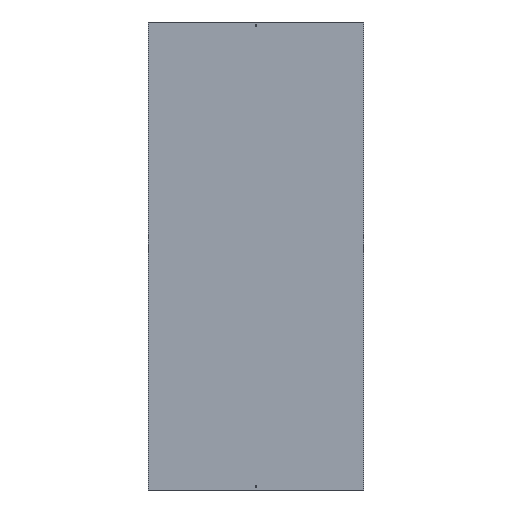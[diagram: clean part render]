
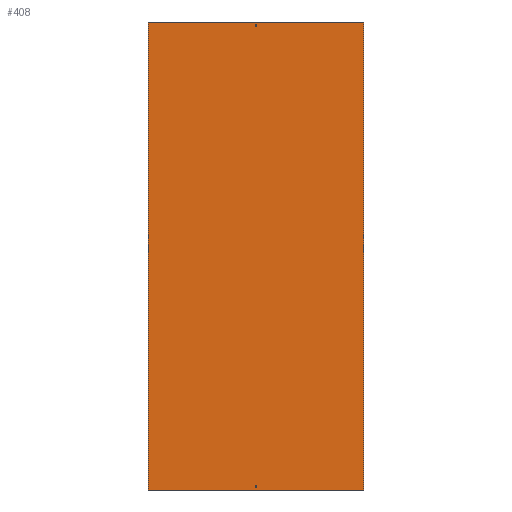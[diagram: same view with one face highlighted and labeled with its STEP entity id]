
A CAD part, front view. The second image highlights one B-rep face of the part: STEP entity #408.
In plain terms, the highlighted planar face has unit normal (0, -1, 0).
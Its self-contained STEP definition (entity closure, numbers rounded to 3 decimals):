
#1 = EDGE_CURVE ( 'NONE', #537, #150, #47, .T. ) ;
#10 = EDGE_CURVE ( 'NONE', #380, #466, #485, .T. ) ;
#15 = CARTESIAN_POINT ( 'NONE',  ( -461.5, -1.5, -979. ) ) ;
#22 = LINE ( 'NONE', #103, #359 ) ;
#24 = DIRECTION ( 'NONE',  ( 0., -1., 0. ) ) ;
#28 = AXIS2_PLACEMENT_3D ( 'NONE', #484, #24, #568 ) ;
#40 = VECTOR ( 'NONE', #230, 1000. ) ;
#46 = EDGE_CURVE ( 'NONE', #588, #373, #206, .T. ) ;
#47 = LINE ( 'NONE', #240, #494 ) ;
#55 = ORIENTED_EDGE ( 'NONE', *, *, #10, .T. ) ;
#57 = EDGE_CURVE ( 'NONE', #466, #520, #261, .T. ) ;
#59 = VECTOR ( 'NONE', #403, 1000. ) ;
#60 = DIRECTION ( 'NONE',  ( 0., 0., -1. ) ) ;
#69 = EDGE_CURVE ( 'NONE', #294, #400, #22, .T. ) ;
#78 = FACE_BOUND ( 'NONE', #125, .T. ) ;
#79 = ORIENTED_EDGE ( 'NONE', *, *, #57, .T. ) ;
#86 = CARTESIAN_POINT ( 'NONE',  ( 3.25, -1.5, 1000. ) ) ;
#90 = LINE ( 'NONE', #133, #40 ) ;
#91 = VECTOR ( 'NONE', #347, 1000. ) ;
#95 = EDGE_LOOP ( 'NONE', ( #194, #272, #55, #79 ) ) ;
#101 = VECTOR ( 'NONE', #327, 1000. ) ;
#102 = VERTEX_POINT ( 'NONE', #533 ) ;
#103 = CARTESIAN_POINT ( 'NONE',  ( -460., -1.5, 1000. ) ) ;
#104 = CARTESIAN_POINT ( 'NONE',  ( 460., -1.5, 1000. ) ) ;
#106 = EDGE_CURVE ( 'NONE', #150, #325, #175, .T. ) ;
#114 = FACE_BOUND ( 'NONE', #95, .T. ) ;
#125 = EDGE_LOOP ( 'NONE', ( #365, #382, #482, #415 ) ) ;
#133 = CARTESIAN_POINT ( 'NONE',  ( -3.25, -1.5, 1000. ) ) ;
#148 = EDGE_CURVE ( 'NONE', #588, #294, #500, .T. ) ;
#150 = VERTEX_POINT ( 'NONE', #575 ) ;
#155 = CARTESIAN_POINT ( 'NONE',  ( 460., -1.5, 1000. ) ) ;
#164 = LINE ( 'NONE', #502, #190 ) ;
#169 = DIRECTION ( 'NONE',  ( -1., 0., 0. ) ) ;
#174 = CARTESIAN_POINT ( 'NONE',  ( -461.5, -1.5, -1000. ) ) ;
#175 = LINE ( 'NONE', #368, #351 ) ;
#185 = ORIENTED_EDGE ( 'NONE', *, *, #46, .F. ) ;
#190 = VECTOR ( 'NONE', #169, 1000. ) ;
#194 = ORIENTED_EDGE ( 'NONE', *, *, #439, .T. ) ;
#206 = LINE ( 'NONE', #155, #91 ) ;
#219 = CARTESIAN_POINT ( 'NONE',  ( -461.5, -1.5, 1000. ) ) ;
#222 = VERTEX_POINT ( 'NONE', #234 ) ;
#230 = DIRECTION ( 'NONE',  ( 0., 0., 1. ) ) ;
#234 = CARTESIAN_POINT ( 'NONE',  ( 3.25, -1.5, 979. ) ) ;
#240 = CARTESIAN_POINT ( 'NONE',  ( -461.5, -1.5, 988. ) ) ;
#256 = VECTOR ( 'NONE', #587, 1000. ) ;
#261 = LINE ( 'NONE', #266, #324 ) ;
#266 = CARTESIAN_POINT ( 'NONE',  ( 3.25, -1.5, 1000. ) ) ;
#267 = ORIENTED_EDGE ( 'NONE', *, *, #69, .T. ) ;
#272 = ORIENTED_EDGE ( 'NONE', *, *, #275, .T. ) ;
#274 = LINE ( 'NONE', #174, #256 ) ;
#275 = EDGE_CURVE ( 'NONE', #102, #380, #90, .T. ) ;
#294 = VERTEX_POINT ( 'NONE', #543 ) ;
#305 = CARTESIAN_POINT ( 'NONE',  ( -460., -1.5, -1000. ) ) ;
#315 = PLANE ( 'NONE',  #28 ) ;
#322 = DIRECTION ( 'NONE',  ( 1., 0., 0. ) ) ;
#324 = VECTOR ( 'NONE', #60, 1000. ) ;
#325 = VERTEX_POINT ( 'NONE', #419 ) ;
#327 = DIRECTION ( 'NONE',  ( 0., 0., 1. ) ) ;
#337 = CARTESIAN_POINT ( 'NONE',  ( 3.25, -1.5, 988. ) ) ;
#340 = DIRECTION ( 'NONE',  ( -1., 0., 0. ) ) ;
#347 = DIRECTION ( 'NONE',  ( 0., 0., -1. ) ) ;
#351 = VECTOR ( 'NONE', #406, 1000. ) ;
#359 = VECTOR ( 'NONE', #519, 1000. ) ;
#365 = ORIENTED_EDGE ( 'NONE', *, *, #106, .F. ) ;
#368 = CARTESIAN_POINT ( 'NONE',  ( -3.25, -1.5, 1000. ) ) ;
#373 = VERTEX_POINT ( 'NONE', #571 ) ;
#380 = VERTEX_POINT ( 'NONE', #521 ) ;
#382 = ORIENTED_EDGE ( 'NONE', *, *, #1, .F. ) ;
#395 = FACE_OUTER_BOUND ( 'NONE', #480, .T. ) ;
#400 = VERTEX_POINT ( 'NONE', #305 ) ;
#403 = DIRECTION ( 'NONE',  ( -1., 0., 0. ) ) ;
#406 = DIRECTION ( 'NONE',  ( 0., 0., -1. ) ) ;
#408 = ADVANCED_FACE ( 'NONE', ( #78, #395, #114 ), #315, .T. ) ;
#415 = ORIENTED_EDGE ( 'NONE', *, *, #491, .F. ) ;
#419 = CARTESIAN_POINT ( 'NONE',  ( -3.25, -1.5, 979. ) ) ;
#439 = EDGE_CURVE ( 'NONE', #520, #102, #164, .T. ) ;
#448 = EDGE_CURVE ( 'NONE', #222, #537, #583, .T. ) ;
#458 = CARTESIAN_POINT ( 'NONE',  ( 3.25, -1.5, -979. ) ) ;
#466 = VERTEX_POINT ( 'NONE', #458 ) ;
#480 = EDGE_LOOP ( 'NONE', ( #579, #185, #560, #267 ) ) ;
#482 = ORIENTED_EDGE ( 'NONE', *, *, #448, .F. ) ;
#484 = CARTESIAN_POINT ( 'NONE',  ( -461.5, -1.5, 1000. ) ) ;
#485 = LINE ( 'NONE', #15, #539 ) ;
#491 = EDGE_CURVE ( 'NONE', #325, #222, #581, .T. ) ;
#492 = EDGE_CURVE ( 'NONE', #373, #400, #274, .T. ) ;
#494 = VECTOR ( 'NONE', #340, 1000. ) ;
#500 = LINE ( 'NONE', #219, #59 ) ;
#502 = CARTESIAN_POINT ( 'NONE',  ( -461.5, -1.5, -988. ) ) ;
#506 = VECTOR ( 'NONE', #322, 1000. ) ;
#515 = DIRECTION ( 'NONE',  ( 1., 0., 0. ) ) ;
#519 = DIRECTION ( 'NONE',  ( 0., 0., -1. ) ) ;
#520 = VERTEX_POINT ( 'NONE', #578 ) ;
#521 = CARTESIAN_POINT ( 'NONE',  ( -3.25, -1.5, -979. ) ) ;
#533 = CARTESIAN_POINT ( 'NONE',  ( -3.25, -1.5, -988. ) ) ;
#537 = VERTEX_POINT ( 'NONE', #337 ) ;
#539 = VECTOR ( 'NONE', #515, 1000. ) ;
#543 = CARTESIAN_POINT ( 'NONE',  ( -460., -1.5, 1000. ) ) ;
#560 = ORIENTED_EDGE ( 'NONE', *, *, #148, .T. ) ;
#568 = DIRECTION ( 'NONE',  ( 0., 0., -1. ) ) ;
#571 = CARTESIAN_POINT ( 'NONE',  ( 460., -1.5, -1000. ) ) ;
#575 = CARTESIAN_POINT ( 'NONE',  ( -3.25, -1.5, 988. ) ) ;
#578 = CARTESIAN_POINT ( 'NONE',  ( 3.25, -1.5, -988. ) ) ;
#579 = ORIENTED_EDGE ( 'NONE', *, *, #492, .F. ) ;
#581 = LINE ( 'NONE', #590, #506 ) ;
#583 = LINE ( 'NONE', #86, #101 ) ;
#587 = DIRECTION ( 'NONE',  ( -1., 0., 0. ) ) ;
#588 = VERTEX_POINT ( 'NONE', #104 ) ;
#590 = CARTESIAN_POINT ( 'NONE',  ( -461.5, -1.5, 979. ) ) ;
